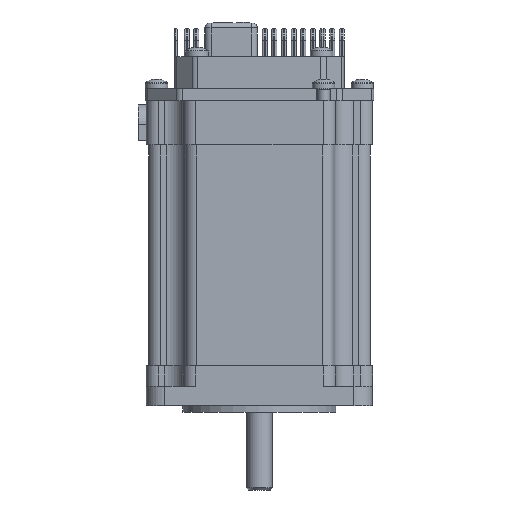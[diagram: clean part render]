
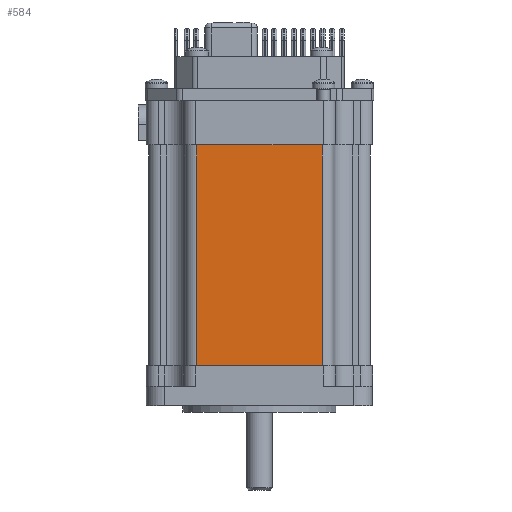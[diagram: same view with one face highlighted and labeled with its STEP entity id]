
A CAD part, left-side view. The second image highlights one B-rep face of the part: STEP entity #584.
In plain terms, the highlighted planar face has unit normal (-1, 0, 0).
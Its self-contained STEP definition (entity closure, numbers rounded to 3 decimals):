
#584=ADVANCED_FACE('',(#2198),#2200,.T.);
#2198=FACE_BOUND('',#2199,.T.);
#2199=EDGE_LOOP('',(#9430,#9431,#9432,#9433));
#2200=PLANE('',#2201);
#2201=AXIS2_PLACEMENT_3D('',#2202,#2203,#2204);
#2202=CARTESIAN_POINT('',(-27.636,15.621,10.));
#2203=DIRECTION('',(-1.,0.,0.));
#2204=DIRECTION('',(0.,-1.,0.));
#9430=ORIENTED_EDGE('',*,*,#14923,.F.);
#9431=ORIENTED_EDGE('',*,*,#14924,.T.);
#9432=ORIENTED_EDGE('',*,*,#14925,.T.);
#9433=ORIENTED_EDGE('',*,*,#14891,.T.);
#14891=EDGE_CURVE('',#17476,#17477,#17478,.F.);
#14923=EDGE_CURVE('',#17536,#17477,#17537,.T.);
#14924=EDGE_CURVE('',#17536,#17538,#17539,.T.);
#14925=EDGE_CURVE('',#17538,#17476,#17540,.T.);
#17476=VERTEX_POINT('',#21849);
#17477=VERTEX_POINT('',#21850);
#17478=LINE('',#21851,#21852);
#17536=VERTEX_POINT('',#21986);
#17537=LINE('',#21987,#21988);
#17538=VERTEX_POINT('',#21990);
#17539=LINE('',#21991,#21992);
#17540=LINE('',#21994,#21995);
#21849=CARTESIAN_POINT('',(-27.636,-15.621,65.));
#21850=CARTESIAN_POINT('',(-27.636,15.621,65.));
#21851=CARTESIAN_POINT('',(-27.636,15.621,65.));
#21852=VECTOR('',#21853,1.);
#21853=DIRECTION('',(0.,-1.,0.));
#21986=CARTESIAN_POINT('',(-27.636,15.621,10.));
#21987=CARTESIAN_POINT('',(-27.636,15.621,10.));
#21988=VECTOR('',#21989,1.);
#21989=DIRECTION('',(0.,0.,1.));
#21990=CARTESIAN_POINT('',(-27.636,-15.621,10.));
#21991=CARTESIAN_POINT('',(-27.636,15.621,10.));
#21992=VECTOR('',#21993,1.);
#21993=DIRECTION('',(0.,-1.,0.));
#21994=CARTESIAN_POINT('',(-27.636,-15.621,10.));
#21995=VECTOR('',#21996,1.);
#21996=DIRECTION('',(0.,0.,1.));
